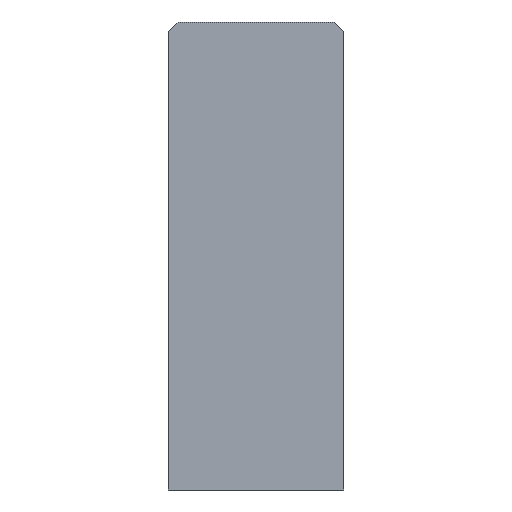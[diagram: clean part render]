
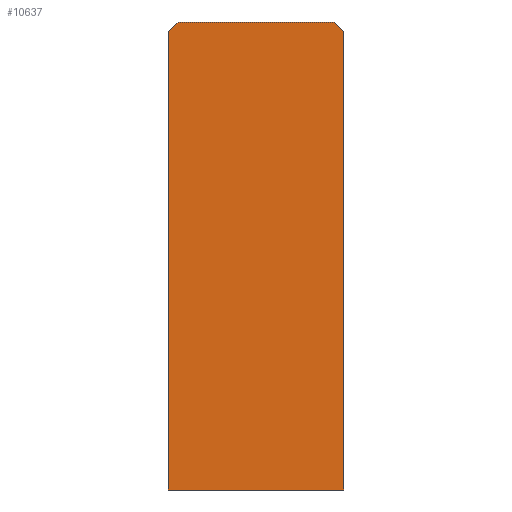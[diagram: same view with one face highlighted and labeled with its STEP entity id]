
A CAD part, left-side view. The second image highlights one B-rep face of the part: STEP entity #10637.
In plain terms, the highlighted planar face has unit normal (-1, 0, 0).
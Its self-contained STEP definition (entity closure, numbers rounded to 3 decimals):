
#372=LINE('',#37420,#686);
#376=LINE('',#37427,#690);
#382=LINE('',#37439,#696);
#384=LINE('',#37443,#698);
#385=LINE('',#37446,#699);
#387=LINE('',#37449,#701);
#686=VECTOR('',#11393,0.707);
#690=VECTOR('',#11399,8.);
#696=VECTOR('',#11409,0.707);
#698=VECTOR('',#11413,23.5);
#699=VECTOR('',#11416,9.);
#701=VECTOR('',#11420,23.5);
#983=PLANE('',#10923);
#1648=FACE_OUTER_BOUND('',#2384,.T.);
#2384=EDGE_LOOP('',(#8099,#8100,#8101,#8102,#8103,#8104));
#4160=VERTEX_POINT('',#37417);
#4161=VERTEX_POINT('',#37419);
#4163=VERTEX_POINT('',#37425);
#4167=VERTEX_POINT('',#37437);
#4168=VERTEX_POINT('',#37441);
#4169=VERTEX_POINT('',#37445);
#5506=EDGE_CURVE('',#4160,#4161,#372,.T.);
#5510=EDGE_CURVE('',#4163,#4160,#376,.T.);
#5516=EDGE_CURVE('',#4167,#4163,#382,.T.);
#5518=EDGE_CURVE('',#4168,#4167,#384,.T.);
#5519=EDGE_CURVE('',#4169,#4168,#385,.T.);
#5521=EDGE_CURVE('',#4161,#4169,#387,.T.);
#8099=ORIENTED_EDGE('',*,*,#5506,.F.);
#8100=ORIENTED_EDGE('',*,*,#5510,.F.);
#8101=ORIENTED_EDGE('',*,*,#5516,.F.);
#8102=ORIENTED_EDGE('',*,*,#5518,.F.);
#8103=ORIENTED_EDGE('',*,*,#5519,.F.);
#8104=ORIENTED_EDGE('',*,*,#5521,.F.);
#10637=ADVANCED_FACE('',(#1648),#983,.F.);
#10923=AXIS2_PLACEMENT_3D('',#37450,#11421,#11422);
#11393=DIRECTION('',(0.,-0.707,-0.707));
#11399=DIRECTION('',(0.,-1.,0.));
#11409=DIRECTION('',(0.,-0.707,0.707));
#11413=DIRECTION('',(0.,0.,1.));
#11416=DIRECTION('',(0.,1.,0.));
#11420=DIRECTION('',(0.,0.,-1.));
#11421=DIRECTION('center_axis',(1.,0.,0.));
#11422=DIRECTION('ref_axis',(0.,-1.,0.));
#37417=CARTESIAN_POINT('',(-5.5,-4.,0.));
#37419=CARTESIAN_POINT('',(-5.5,-4.5,-0.5));
#37420=CARTESIAN_POINT('',(-5.5,-6.125,-2.125));
#37425=CARTESIAN_POINT('',(-5.5,4.,0.));
#37427=CARTESIAN_POINT('',(-5.5,4.5,0.));
#37437=CARTESIAN_POINT('',(-5.5,4.5,-0.5));
#37439=CARTESIAN_POINT('',(-5.5,6.125,-2.125));
#37441=CARTESIAN_POINT('',(-5.5,4.5,-24.));
#37443=CARTESIAN_POINT('',(-5.5,4.5,-24.));
#37445=CARTESIAN_POINT('',(-5.5,-4.5,-24.));
#37446=CARTESIAN_POINT('',(-5.5,-4.5,-24.));
#37449=CARTESIAN_POINT('',(-5.5,-4.5,0.));
#37450=CARTESIAN_POINT('Origin',(-5.5,0.,-12.));
